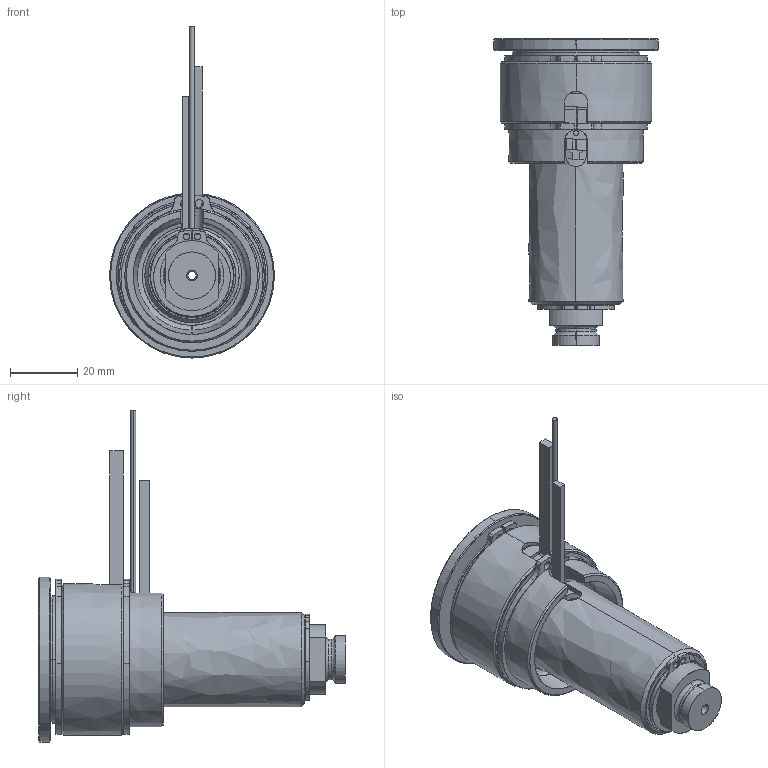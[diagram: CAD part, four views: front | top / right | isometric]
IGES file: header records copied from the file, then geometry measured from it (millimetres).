
Start section: SolidWorks IGES file using analytic representation for surfaces
Global section: file name: C:\Documents and Settings\ws-20\Desktop\TEM\UGBE4501-S-A-3 [Ød-2.5 P-0 ØC-09].IGS; native system: SolidWorks 2012; preprocessor: SolidWorks 2012; author: ws-20; date: 120412.152831; units: millimetre
Bounding box: 49 x 91 x 98.65 mm (x, y, z)
Surface area: 39680 mm2 (no closed solid volume)
Topology: 0 solids, 0 shells, 169 faces, 3229 edges, 3229 vertices
Faces by surface type: revolution 107, bspline 62
